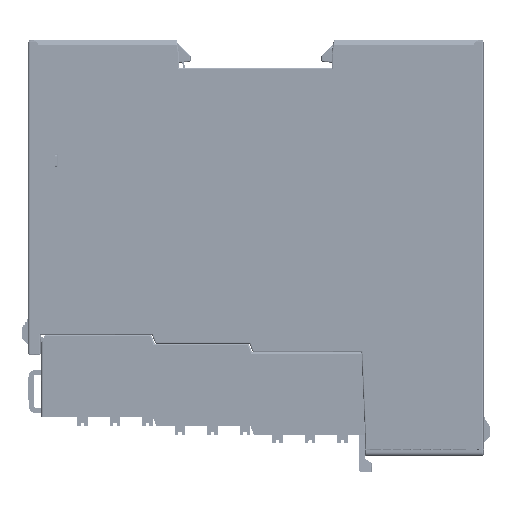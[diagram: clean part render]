
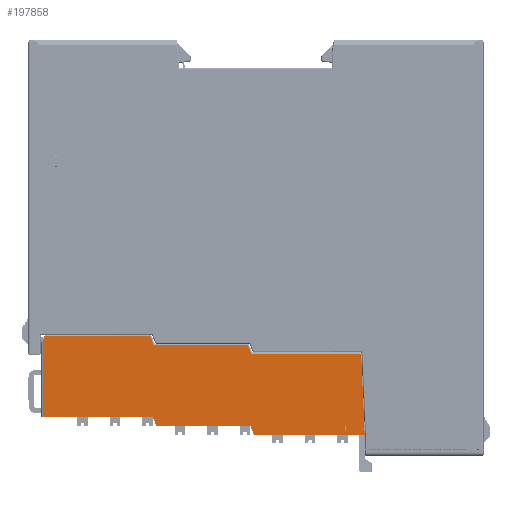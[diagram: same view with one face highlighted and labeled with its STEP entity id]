
A CAD part, front view. The second image highlights one B-rep face of the part: STEP entity #197858.
In plain terms, the highlighted planar face has unit normal (0, -1, 0) as drawn and (0, 1, 0) by its records, which use the part's own axes.
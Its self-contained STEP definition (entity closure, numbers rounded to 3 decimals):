
#156245=DIRECTION('',(0.,0.,1.));
#156246=VECTOR('',#156245,21.712);
#156247=CARTESIAN_POINT('',(-2.,6.15,-11.72));
#156248=LINE('',#156247,#156246);
#161504=DIRECTION('',(0.,0.,1.));
#161505=VECTOR('',#161504,25.32);
#161506=CARTESIAN_POINT('',(-4.,6.15,10.78));
#161507=LINE('',#161506,#161505);
#165937=DIRECTION('',(0.707,0.,0.707));
#165938=VECTOR('',#165937,0.212);
#165939=CARTESIAN_POINT('',(-22.05,6.15,35.95));
#165940=LINE('',#165939,#165938);
#165941=DIRECTION('',(-0.93,0.,
0.367));
#165942=VECTOR('',#165941,2.15);
#165943=CARTESIAN_POINT('',(-20.7,6.15,10.604));
#165944=LINE('',#165943,#165942);
#165945=DIRECTION('',(-0.93,0.,
0.367));
#165946=VECTOR('',#165945,2.15);
#165947=CARTESIAN_POINT('',(-18.7,6.15,-11.896));
#165948=LINE('',#165947,#165946);
#165949=DIRECTION('',(-0.999,0.,0.044));
#165950=VECTOR('',#165949,18.718);
#165951=CARTESIAN_POINT('',(0.,6.15,-38.072));
#165952=LINE('',#165951,#165950);
#165953=DIRECTION('',(0.,0.,-1.));
#165954=VECTOR('',#165953,25.565);
#165955=CARTESIAN_POINT('',(0.,6.15,-12.508));
#165956=LINE('',#165955,#165954);
#165957=DIRECTION('',(0.93,0.,-0.367));
#165958=VECTOR('',#165957,2.15);
#165959=CARTESIAN_POINT('',(-2.,6.15,-11.72));
#165960=LINE('',#165959,#165958);
#165961=DIRECTION('',(0.93,0.,-0.367));
#165962=VECTOR('',#165961,2.15);
#165963=CARTESIAN_POINT('',(-4.,6.15,10.78));
#165964=LINE('',#165963,#165962);
#165965=DIRECTION('',(1.,0.,0.));
#165966=VECTOR('',#165965,1.2);
#165967=CARTESIAN_POINT('',(-2.,6.15,-33.72));
#165968=LINE('',#165967,#165966);
#165969=DIRECTION('',(0.,0.,-1.));
#165970=VECTOR('',#165969,0.107);
#165971=CARTESIAN_POINT('',(-2.,6.15,-33.613));
#165972=LINE('',#165971,#165970);
#165984=DIRECTION('',(1.,0.,0.));
#165985=VECTOR('',#165984,17.9);
#165986=CARTESIAN_POINT('',(-21.9,6.15,36.1));
#165987=LINE('',#165986,#165985);
#166294=DIRECTION('',(-1.,0.,0.));
#166295=VECTOR('',#166294,0.65);
#166296=CARTESIAN_POINT('',(-22.05,6.15,35.95));
#166297=LINE('',#166296,#166295);
#166414=DIRECTION('',(0.,0.,-1.));
#166415=VECTOR('',#166414,24.558);
#166416=CARTESIAN_POINT('',(-22.7,6.15,35.95));
#166417=LINE('',#166416,#166415);
#166438=DIRECTION('',(0.,0.,-1.));
#166439=VECTOR('',#166438,21.712);
#166440=CARTESIAN_POINT('',(-20.7,6.15,10.604));
#166441=LINE('',#166440,#166439);
#166468=DIRECTION('',(0.,0.,1.));
#166469=VECTOR('',#166468,25.36);
#166470=CARTESIAN_POINT('',(-18.7,6.15,-37.256));
#166471=LINE('',#166470,#166469);
#166492=DIRECTION('',(-1.,0.,0.));
#166493=VECTOR('',#166492,1.2);
#166494=CARTESIAN_POINT('',(-4.8,6.15,31.7));
#166495=LINE('',#166494,#166493);
#166504=DIRECTION('',(0.,0.,1.));
#166505=VECTOR('',#166504,0.08);
#166506=CARTESIAN_POINT('',(-6.,6.15,31.7));
#166507=LINE('',#166506,#166505);
#166656=DIRECTION('',(0.,0.,1.));
#166657=VECTOR('',#166656,0.08);
#166658=CARTESIAN_POINT('',(-4.8,6.15,31.7));
#166659=LINE('',#166658,#166657);
#166688=DIRECTION('',(-1.,0.,0.));
#166689=VECTOR('',#166688,1.2);
#166690=CARTESIAN_POINT('',(-4.8,6.15,31.78));
#166691=LINE('',#166690,#166689);
#169142=DIRECTION('',(0.,0.,1.));
#169143=VECTOR('',#169142,0.107);
#169144=CARTESIAN_POINT('',(-0.8,6.15,-33.72));
#169145=LINE('',#169144,#169143);
#169150=DIRECTION('',(-1.,0.,0.));
#169151=VECTOR('',#169150,1.2);
#169152=CARTESIAN_POINT('',(-0.8,6.15,-33.613));
#169153=LINE('',#169152,#169151);
#179656=CARTESIAN_POINT('',(0.,6.15,-12.508));
#179657=VERTEX_POINT('',#179656);
#179658=CARTESIAN_POINT('',(0.,6.15,-38.072));
#179659=VERTEX_POINT('',#179658);
#179782=CARTESIAN_POINT('',(-2.,6.15,-33.613));
#179783=VERTEX_POINT('',#179782);
#179784=CARTESIAN_POINT('',(-2.,6.15,-33.72));
#179785=VERTEX_POINT('',#179784);
#179806=CARTESIAN_POINT('',(-0.8,6.15,-33.72));
#179807=VERTEX_POINT('',#179806);
#179808=CARTESIAN_POINT('',(-21.9,6.15,36.1));
#179809=CARTESIAN_POINT('',(-4.,6.15,36.1));
#179810=VERTEX_POINT('',#179808);
#179811=VERTEX_POINT('',#179809);
#179812=CARTESIAN_POINT('',(-22.05,6.15,35.95));
#179813=VERTEX_POINT('',#179812);
#179814=CARTESIAN_POINT('',(-22.7,6.15,35.95));
#179815=VERTEX_POINT('',#179814);
#179816=CARTESIAN_POINT('',(-22.7,6.15,11.392));
#179817=VERTEX_POINT('',#179816);
#179818=CARTESIAN_POINT('',(-20.7,6.15,10.604));
#179819=VERTEX_POINT('',#179818);
#179820=CARTESIAN_POINT('',(-20.7,6.15,-11.108));
#179821=VERTEX_POINT('',#179820);
#179822=CARTESIAN_POINT('',(-18.7,6.15,-11.896));
#179823=VERTEX_POINT('',#179822);
#179824=CARTESIAN_POINT('',(-18.7,6.15,-37.256));
#179825=VERTEX_POINT('',#179824);
#179826=CARTESIAN_POINT('',(-2.,6.15,-11.72));
#179827=VERTEX_POINT('',#179826);
#179828=CARTESIAN_POINT('',(-2.,6.15,9.992));
#179829=VERTEX_POINT('',#179828);
#179830=CARTESIAN_POINT('',(-4.,6.15,10.78));
#179831=VERTEX_POINT('',#179830);
#179832=CARTESIAN_POINT('',(-4.8,6.15,31.7));
#179833=CARTESIAN_POINT('',(-6.,6.15,31.7));
#179834=VERTEX_POINT('',#179832);
#179835=VERTEX_POINT('',#179833);
#179836=CARTESIAN_POINT('',(-6.,6.15,31.78));
#179837=VERTEX_POINT('',#179836);
#179838=CARTESIAN_POINT('',(-4.8,6.15,31.78));
#179839=VERTEX_POINT('',#179838);
#179840=CARTESIAN_POINT('',(-0.8,6.15,-33.613));
#179841=VERTEX_POINT('',#179840);
#197809=CARTESIAN_POINT('',(-11.35,6.15,-0.986));
#197810=DIRECTION('',(0.,1.,0.));
#197811=DIRECTION('',(1.,0.,0.));
#197812=AXIS2_PLACEMENT_3D('',#197809,#197810,#197811);
#197813=PLANE('',#197812);
#197815=ORIENTED_EDGE('',*,*,#197814,.F.);
#197817=ORIENTED_EDGE('',*,*,#197816,.F.);
#197819=ORIENTED_EDGE('',*,*,#197818,.T.);
#197821=ORIENTED_EDGE('',*,*,#197820,.T.);
#197823=ORIENTED_EDGE('',*,*,#197822,.F.);
#197825=ORIENTED_EDGE('',*,*,#197824,.T.);
#197826=ORIENTED_EDGE('',*,*,#197799,.F.);
#197828=ORIENTED_EDGE('',*,*,#197827,.F.);
#197830=ORIENTED_EDGE('',*,*,#197829,.F.);
#197831=ORIENTED_EDGE('',*,*,#183306,.F.);
#197832=ORIENTED_EDGE('',*,*,#183996,.F.);
#197833=ORIENTED_EDGE('',*,*,#184032,.T.);
#197834=ORIENTED_EDGE('',*,*,#191430,.F.);
#197835=ORIENTED_EDGE('',*,*,#191447,.T.);
#197836=EDGE_LOOP('',(#197815,#197817,#197819,#197821,#197823,#197825,#197826,
#197828,#197830,#197831,#197832,#197833,#197834,#197835));
#197837=FACE_OUTER_BOUND('',#197836,.F.);
#197839=ORIENTED_EDGE('',*,*,#197838,.T.);
#197841=ORIENTED_EDGE('',*,*,#197840,.T.);
#197843=ORIENTED_EDGE('',*,*,#197842,.F.);
#197845=ORIENTED_EDGE('',*,*,#197844,.F.);
#197846=EDGE_LOOP('',(#197839,#197841,#197843,#197845));
#197847=FACE_BOUND('',#197846,.F.);
#197849=ORIENTED_EDGE('',*,*,#197848,.F.);
#197851=ORIENTED_EDGE('',*,*,#197850,.F.);
#197853=ORIENTED_EDGE('',*,*,#197852,.F.);
#197855=ORIENTED_EDGE('',*,*,#197854,.F.);
#197856=EDGE_LOOP('',(#197849,#197851,#197853,#197855));
#197857=FACE_BOUND('',#197856,.F.);
#197858=ADVANCED_FACE('',(#197837,#197847,#197857),#197813,.T.);
#183306=EDGE_CURVE('',#179657,#179659,#165956,.T.);
#183996=EDGE_CURVE('',#179827,#179657,#165960,.T.);
#184032=EDGE_CURVE('',#179827,#179829,#156248,.T.);
#191430=EDGE_CURVE('',#179831,#179829,#165964,.T.);
#191447=EDGE_CURVE('',#179831,#179811,#161507,.T.);
#197799=EDGE_CURVE('',#179823,#179821,#165948,.T.);
#197814=EDGE_CURVE('',#179810,#179811,#165987,.T.);
#197816=EDGE_CURVE('',#179813,#179810,#165940,.T.);
#197818=EDGE_CURVE('',#179813,#179815,#166297,.T.);
#197820=EDGE_CURVE('',#179815,#179817,#166417,.T.);
#197822=EDGE_CURVE('',#179819,#179817,#165944,.T.);
#197824=EDGE_CURVE('',#179819,#179821,#166441,.T.);
#197827=EDGE_CURVE('',#179825,#179823,#166471,.T.);
#197829=EDGE_CURVE('',#179659,#179825,#165952,.T.);
#197838=EDGE_CURVE('',#179834,#179835,#166495,.T.);
#197840=EDGE_CURVE('',#179835,#179837,#166507,.T.);
#197842=EDGE_CURVE('',#179839,#179837,#166691,.T.);
#197844=EDGE_CURVE('',#179834,#179839,#166659,.T.);
#197848=EDGE_CURVE('',#179785,#179807,#165968,.T.);
#197850=EDGE_CURVE('',#179783,#179785,#165972,.T.);
#197852=EDGE_CURVE('',#179841,#179783,#169153,.T.);
#197854=EDGE_CURVE('',#179807,#179841,#169145,.T.);
